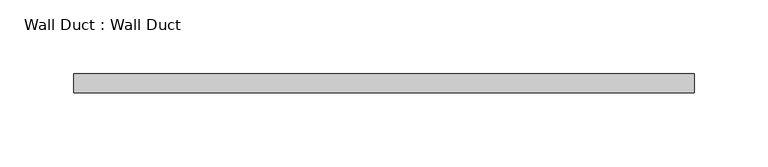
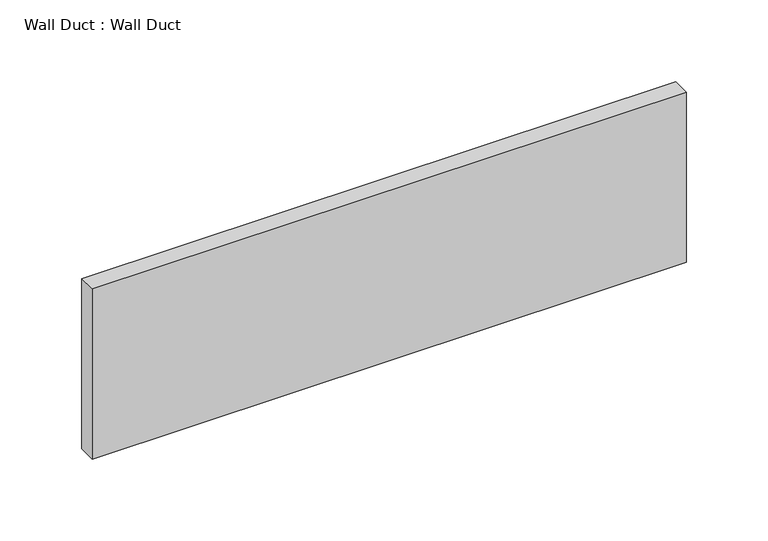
"""IFC4 building model written with IfcOpenShell, lengths in millimetres: proxy geometry, Wall Duct : Wall Duct."""

import ifcopenshell
import ifcopenshell.guid

model = None  # the IFC model being written
_history = None  # IfcOwnerHistory: only IFC2X3 demands one
_inside = {}  # id of a spatial element -> (the spatial element, [elements in it])
_under = {}  # id of a project, library or spatial element -> (it, [spatial elements below it])
_declared = {}  # id of a project -> (the project, [libraries it declares])
_typed = {}  # id of a type object -> (the type object, [elements of that type])
_made_of = {}  # id of a material, layer set ... -> (it, [elements and type objects made of it])


def new_model(schema):
    """Start an empty IFC model of exactly this schema.

    Asked for "IFC4X3", IfcOpenShell would pick the latest addendum, in which some entities
    have other attributes; the version numbers below select the first issue.
    IFC2X3 requires an IfcOwnerHistory on every rooted entity: one is made here for all.
    """
    global model, _history
    if schema == "IFC4X3":
        model = ifcopenshell.file(schema_version=(4, 3, 0, 0))
    else:
        model = ifcopenshell.file(schema=schema)
    _inside.clear()
    _under.clear()
    _declared.clear()
    _typed.clear()
    _made_of.clear()
    _history = None
    if model.schema == "IFC2X3":
        org = make("IfcOrganization", Name="unknown")
        user = make(
            "IfcPersonAndOrganization",
            ThePerson=make("IfcPerson", FamilyName="unknown"),
            TheOrganization=org,
        )
        app = make(
            "IfcApplication",
            ApplicationDeveloper=org,
            Version="unknown",
            ApplicationFullName="unknown",
            ApplicationIdentifier="unknown",
        )
        _history = make(
            "IfcOwnerHistory",
            OwningUser=user,
            OwningApplication=app,
            ChangeAction="ADDED",
            CreationDate=0,
        )
    return model


def make(cls, **values):
    """One entity of the class cls with the attributes given. An attribute that is None is left unset."""
    return model.create_entity(
        cls, **{name: value for name, value in values.items() if value is not None}
    )


def rooted(cls, **values):
    """An entity with a GlobalId (a new one), such as an element, a storey or a relation."""
    return make(cls, GlobalId=ifcopenshell.guid.new(), OwnerHistory=_history, **values)


def si_unit(unit_type, name, prefix=None):
    """IfcSIUnit, for example si_unit("LENGTHUNIT", "METRE", prefix="MILLI")."""
    return make("IfcSIUnit", UnitType=unit_type, Prefix=prefix, Name=name)


def assignment(units):
    """IfcUnitAssignment: the units of a project."""
    return None if units is None else make("IfcUnitAssignment", Units=units)


def point(xyz):
    """IfcCartesianPoint."""
    return None if xyz is None else make("IfcCartesianPoint", Coordinates=xyz)


def direction(xyz):
    """IfcDirection."""
    return None if xyz is None else make("IfcDirection", DirectionRatios=xyz)


def frame(location, z_axis=None, x_axis=None):
    """IfcAxis2Placement3D, a coordinate frame: its origin and axes. An axis left out is left unset."""
    return make(
        "IfcAxis2Placement3D",
        Location=point(location),
        Axis=direction(z_axis),
        RefDirection=direction(x_axis),
    )


def origin():
    """The frame at (0, 0, 0) with its axes left unset."""
    return frame((0.0, 0.0, 0.0))


def origin_with_axes():
    """The frame at (0, 0, 0) with the z axis (0, 0, 1) and the x axis (1, 0, 0) written out."""
    return frame((0.0, 0.0, 0.0), z_axis=(0.0, 0.0, 1.0), x_axis=(1.0, 0.0, 0.0))


def place(relative_to, where):
    """IfcLocalPlacement: puts the frame where relative to a parent placement (None: the world)."""
    return make(
        "IfcLocalPlacement", PlacementRelTo=relative_to, RelativePlacement=where
    )


def context(
    kind, dimensions, precision=None, world=None, true_north=None, identifier=None
):
    """IfcGeometricRepresentationContext, for example the 3D "Model" context."""
    return make(
        "IfcGeometricRepresentationContext",
        ContextIdentifier=identifier,
        ContextType=kind,
        CoordinateSpaceDimension=dimensions,
        Precision=precision,
        WorldCoordinateSystem=world,
        TrueNorth=true_north,
    )


def project(units=None, contexts=None):
    """IfcProject with its units and contexts."""
    return rooted(
        "IfcProject",
        Name="project",
        RepresentationContexts=contexts,
        UnitsInContext=assignment(units),
    )


def spatial(cls, under=None, at=None, **own):
    """A site, building, storey or space (cls), placed at a placement, below another one or the project."""
    s = rooted(cls, ObjectPlacement=at, **own)
    if under is not None:
        _under.setdefault(under.id(), (under, []))[1].append(s)
    return s


def polyline(points):
    """IfcPolyline through the points."""
    return make("IfcPolyline", Points=[point(p) for p in points])


def outline(outer, holes=None, kind="AREA"):
    """IfcArbitraryClosedProfileDef: a profile drawn as a closed curve; with holes, ...WithVoids."""
    if holes is None:
        return make("IfcArbitraryClosedProfileDef", ProfileType=kind, OuterCurve=outer)
    return make(
        "IfcArbitraryProfileDefWithVoids",
        ProfileType=kind,
        OuterCurve=outer,
        InnerCurves=holes,
    )


def extrude(swept, where, along, depth):
    """IfcExtrudedAreaSolid: the profile swept, set in the frame where, extruded along a direction by depth."""
    return make(
        "IfcExtrudedAreaSolid",
        SweptArea=swept,
        Position=where,
        ExtrudedDirection=direction(along),
        Depth=depth,
    )


def shape(context_of_items, identifier, shape_type, items):
    """IfcShapeRepresentation: the items that make up one representation, for example the "Body"."""
    return make(
        "IfcShapeRepresentation",
        ContextOfItems=context_of_items,
        RepresentationIdentifier=identifier,
        RepresentationType=shape_type,
        Items=items,
    )


def source(mapping_origin, context_of_items, identifier, shape_type, items):
    """IfcRepresentationMap: a shape defined once, which mapped items show again and again."""
    return make(
        "IfcRepresentationMap",
        MappingOrigin=mapping_origin,
        MappedRepresentation=shape(context_of_items, identifier, shape_type, items),
    )


def transform(
    local_origin,
    x_axis=None,
    y_axis=None,
    z_axis=None,
    scale=None,
    scale2=None,
    scale3=None,
    uniform=True,
):
    """IfcCartesianTransformationOperator3D, or its non-uniform kind. x_axis, y_axis, z_axis: its Axis1, 2, 3."""
    if uniform:
        return make(
            "IfcCartesianTransformationOperator3D",
            Axis1=direction(x_axis),
            Axis2=direction(y_axis),
            LocalOrigin=point(local_origin),
            Scale=scale,
            Axis3=direction(z_axis),
        )
    return make(
        "IfcCartesianTransformationOperator3DnonUniform",
        Axis1=direction(x_axis),
        Axis2=direction(y_axis),
        LocalOrigin=point(local_origin),
        Scale=scale,
        Axis3=direction(z_axis),
        Scale2=scale2,
        Scale3=scale3,
    )


def mapped(mapping_source, mapping_target):
    """IfcMappedItem: shows the shape of a source again, moved by a transform."""
    return make(
        "IfcMappedItem", MappingSource=mapping_source, MappingTarget=mapping_target
    )


def made_of(thing, what):
    """Note that an element or type object is made of a material, layer set ...; save() writes the relation."""
    if what is not None:
        _made_of.setdefault(what.id(), (what, []))[1].append(thing)
    return thing


def element(
    cls,
    number,
    at=None,
    inside=None,
    cuts=None,
    type_object=None,
    material=None,
    context=None,
    identifier="Body",
    shape_type=None,
    held_by="IfcProductDefinitionShape",
    body=None,
    shapes=None,
    **own,
):
    """One element of the class cls, such as IfcWall. Its Tag is "e" and its number.

    at: its placement. inside: the storey or other place that contains it. cuts: it is an
    opening in that element (IfcRelVoidsElement). A single representation is given by context,
    identifier, shape_type and body (its items); several are given by shapes. held_by: the class
    of the entity that holds the representations. save() writes the other relations.
    """
    e = rooted(cls, Tag="e%d" % number, ObjectPlacement=at, **own)
    if body is not None:
        shapes = [shape(context, identifier, shape_type, body)]
    if shapes is not None:
        e.Representation = make(held_by, Representations=shapes)
    if inside is not None:
        _inside.setdefault(inside.id(), (inside, []))[1].append(e)
    if cuts is not None:
        rooted(
            "IfcRelVoidsElement", RelatingBuildingElement=cuts, RelatedOpeningElement=e
        )
    if type_object is not None:
        _typed.setdefault(type_object.id(), (type_object, []))[1].append(e)
    return made_of(e, material)


def aggregate(whole, parts):
    """IfcRelAggregates: a whole, such as a stair, and the parts it consists of."""
    return rooted("IfcRelAggregates", RelatingObject=whole, RelatedObjects=parts)


def save(model, path):
    """Write the relations noted so far, then the file.

    IfcRelAggregates (storeys below a building ...), IfcRelContainedInSpatialStructure (elements
    in a storey), IfcRelDefinesByType, IfcRelAssociatesMaterial and IfcRelDeclares: one each for
    every whole, place, type object, material and project.
    """
    for whole, parts in _under.values():
        aggregate(whole, parts)
    for where, things in _inside.values():
        rooted(
            "IfcRelContainedInSpatialStructure",
            RelatedElements=things,
            RelatingStructure=where,
        )
    for kind, things in _typed.values():
        rooted("IfcRelDefinesByType", RelatedObjects=things, RelatingType=kind)
    for what, things in _made_of.values():
        rooted("IfcRelAssociatesMaterial", RelatedObjects=things, RelatingMaterial=what)
    for by, libraries in _declared.values():
        rooted("IfcRelDeclares", RelatingContext=by, RelatedDefinitions=libraries)
    model.write(path)


def wall_duct_wall_duct_ddb6b5c5(model_context):
    return source(origin(), model_context, "Body", "SweptSolid", [
        extrude(outline(polyline([(209.55, 0.0), (209.55, -12.7), (-209.55, -12.7), (-209.55, 0.0), (209.55, 0.0)])), origin_with_axes(), (0.0, 0.0, 1.0), 127.0),
    ])


if __name__ == "__main__":
    model = new_model("IFC4")
    model_context = context("Model", 3, world=origin())
    ifc_project = project(units=[si_unit("LENGTHUNIT", "METRE", prefix="MILLI")], contexts=[model_context])
    site = spatial("IfcSite", under=ifc_project)
    building = spatial("IfcBuilding", under=site)
    placement = place(None, origin())
    wall_duct_wall_duct_shape = wall_duct_wall_duct_ddb6b5c5(model_context)
    element("IfcBuildingElementProxy", 1, Name="Wall Duct : Wall Duct", ObjectType="Wall Duct : Wall Duct", at=placement, inside=building, context=model_context, shape_type="MappedRepresentation", body=[
        mapped(wall_duct_wall_duct_shape, transform((0.0, 0.0, 0.0), x_axis=(1.0, 0.0, 0.0), y_axis=(0.0, 1.0, 0.0), z_axis=(0.0, 0.0, 1.0))),
    ])
    save(model, "model.ifc")
